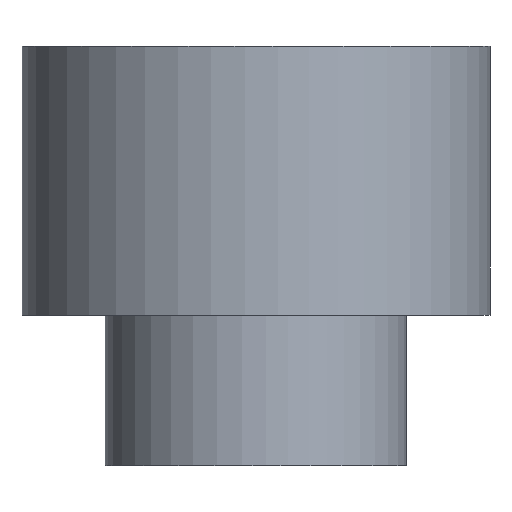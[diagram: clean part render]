
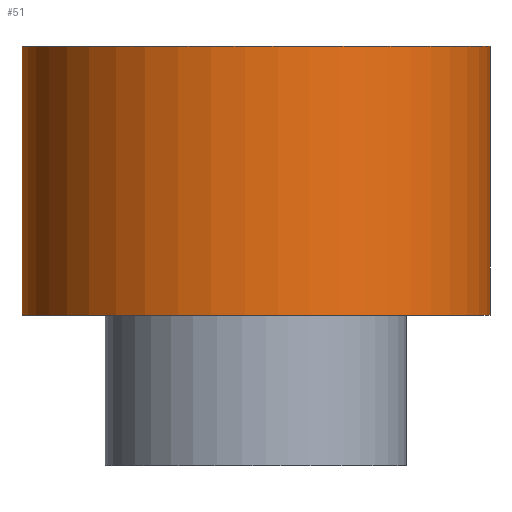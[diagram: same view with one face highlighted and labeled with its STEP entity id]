
A CAD part, front view. The second image highlights one B-rep face of the part: STEP entity #51.
In plain terms, the highlighted free-form (B-spline) face has degree [2, 1] with [7, 2] control points.
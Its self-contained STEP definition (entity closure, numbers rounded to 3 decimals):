
#35 = EDGE_CURVE('',#36,#36,#38,.T.);
#36 = VERTEX_POINT('',#37);
#37 = CARTESIAN_POINT('',(-2.175,0.,2.5));
#38 = ( BOUNDED_CURVE() B_SPLINE_CURVE(2,(#39,#40,#41,#42,#43,#44,#45),
.UNSPECIFIED.,.T.,.F.) B_SPLINE_CURVE_WITH_KNOTS((1,2,2,2,2,1),(
    -2.094,0.,2.094,4.189,6.283,
8.378),.UNSPECIFIED.) CURVE() GEOMETRIC_REPRESENTATION_ITEM() 
RATIONAL_B_SPLINE_CURVE((1.,0.5,1.,0.5,1.,0.5,1.)) REPRESENTATION_ITEM(
  '') );
#39 = CARTESIAN_POINT('',(-2.175,0.,2.5));
#40 = CARTESIAN_POINT('',(-2.175,3.767,2.5));
#41 = CARTESIAN_POINT('',(1.088,1.884,2.5));
#42 = CARTESIAN_POINT('',(4.35,0.,2.5));
#43 = CARTESIAN_POINT('',(1.088,-1.884,2.5));
#44 = CARTESIAN_POINT('',(-2.175,-3.767,2.5));
#45 = CARTESIAN_POINT('',(-2.175,0.,2.5));
#51 = ADVANCED_FACE('',(#52),#73,.T.);
#52 = FACE_BOUND('',#53,.T.);
#53 = EDGE_LOOP('',(#54,#66,#71,#72));
#54 = ORIENTED_EDGE('',*,*,#55,.F.);
#55 = EDGE_CURVE('',#56,#56,#58,.T.);
#56 = VERTEX_POINT('',#57);
#57 = CARTESIAN_POINT('',(-2.175,0.,0.));
#58 = ( BOUNDED_CURVE() B_SPLINE_CURVE(2,(#59,#60,#61,#62,#63,#64,#65),
.UNSPECIFIED.,.T.,.F.) B_SPLINE_CURVE_WITH_KNOTS((1,2,2,2,2,1),(
    -2.094,0.,2.094,4.189,6.283,
8.378),.UNSPECIFIED.) CURVE() GEOMETRIC_REPRESENTATION_ITEM() 
RATIONAL_B_SPLINE_CURVE((1.,0.5,1.,0.5,1.,0.5,1.)) REPRESENTATION_ITEM(
  '') );
#59 = CARTESIAN_POINT('',(-2.175,0.,0.));
#60 = CARTESIAN_POINT('',(-2.175,3.767,0.));
#61 = CARTESIAN_POINT('',(1.088,1.884,0.));
#62 = CARTESIAN_POINT('',(4.35,0.,0.));
#63 = CARTESIAN_POINT('',(1.088,-1.884,0.));
#64 = CARTESIAN_POINT('',(-2.175,-3.767,0.));
#65 = CARTESIAN_POINT('',(-2.175,0.,0.));
#66 = ORIENTED_EDGE('',*,*,#67,.T.);
#67 = EDGE_CURVE('',#56,#36,#68,.T.);
#68 = B_SPLINE_CURVE_WITH_KNOTS('',1,(#69,#70),.UNSPECIFIED.,.F.,.F.,(2,
    2),(1.4,3.9),.PIECEWISE_BEZIER_KNOTS.);
#69 = CARTESIAN_POINT('',(-2.175,0.,0.));
#70 = CARTESIAN_POINT('',(-2.175,0.,2.5));
#71 = ORIENTED_EDGE('',*,*,#35,.T.);
#72 = ORIENTED_EDGE('',*,*,#67,.F.);
#73 = ( BOUNDED_SURFACE() B_SPLINE_SURFACE(2,1,(
    (#74,#75)
    ,(#76,#77)
    ,(#78,#79)
    ,(#80,#81)
    ,(#82,#83)
    ,(#84,#85)
,(#86,#87
    )),.UNSPECIFIED.,.T.,.F.,.F.) B_SPLINE_SURFACE_WITH_KNOTS((1,2,2,2,2
    ,1),(2,2),(-2.094,0.,2.094,4.189,
    6.283,8.378),(1.4,3.9),.UNSPECIFIED.) 
GEOMETRIC_REPRESENTATION_ITEM() RATIONAL_B_SPLINE_SURFACE((
    (1.,1.)
    ,(0.5,0.5)
    ,(1.,1.)
    ,(0.5,0.5)
    ,(1.,1.)
    ,(0.5,0.5)
,(1.,1.))) REPRESENTATION_ITEM('') SURFACE() );
#74 = CARTESIAN_POINT('',(-2.175,0.,0.));
#75 = CARTESIAN_POINT('',(-2.175,0.,2.5));
#76 = CARTESIAN_POINT('',(-2.175,-3.767,0.));
#77 = CARTESIAN_POINT('',(-2.175,-3.767,2.5));
#78 = CARTESIAN_POINT('',(1.088,-1.884,0.));
#79 = CARTESIAN_POINT('',(1.088,-1.884,2.5));
#80 = CARTESIAN_POINT('',(4.35,0.,0.));
#81 = CARTESIAN_POINT('',(4.35,0.,2.5));
#82 = CARTESIAN_POINT('',(1.088,1.884,0.));
#83 = CARTESIAN_POINT('',(1.088,1.884,2.5));
#84 = CARTESIAN_POINT('',(-2.175,3.767,0.));
#85 = CARTESIAN_POINT('',(-2.175,3.767,2.5));
#86 = CARTESIAN_POINT('',(-2.175,0.,0.));
#87 = CARTESIAN_POINT('',(-2.175,0.,2.5));
